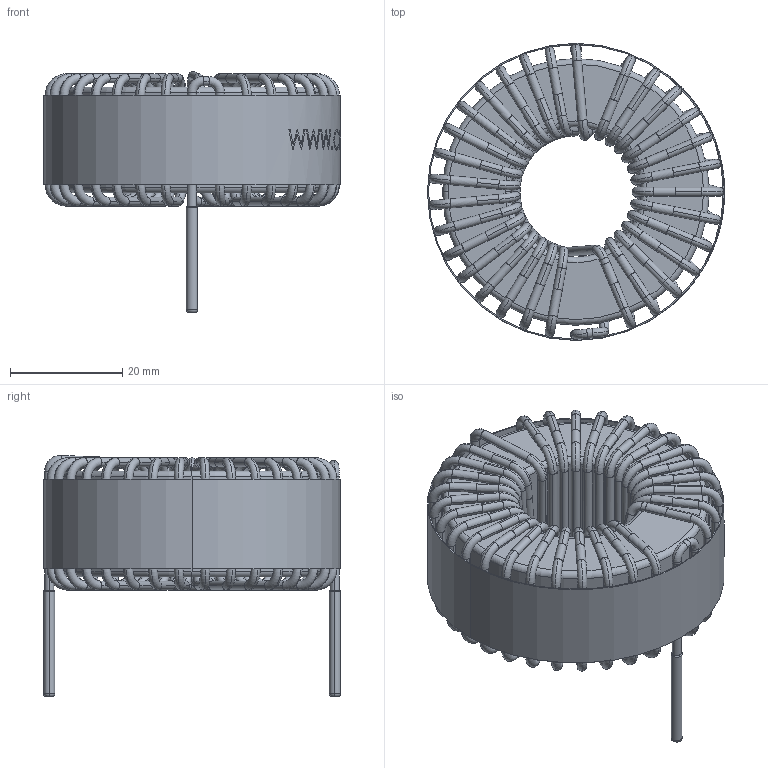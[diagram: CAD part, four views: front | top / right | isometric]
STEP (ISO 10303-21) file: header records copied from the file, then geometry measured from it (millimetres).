
FILE_DESCRIPTION (( 'STEP AP214' ), '1' );
FILE_NAME ('HF 467 -151M-20AH.STEP', '2021-03-18T11:02:01', ( '' ), ( '' ), 'SwSTEP 2.0', 'SolidWorks 2015', '' );
FILE_SCHEMA (( 'AUTOMOTIVE_DESIGN' ));
Length unit declared in the file: millimetre
Products named in the file (4): WINDING; CORE; WRAPPER; HF 467 -151M-20AH
Assembly tree (3 placements, depth 2):
  HF 467 -151M-20AH
    CORE
    WINDING
    WRAPPER
Bounding box: 53.05 x 53.03 x 43.05 mm (x, y, z)
Volume: 30550.6 mm3; surface area: 23356.7 mm2
Topology: 41 solids, 41 shells, 826 faces, 2140 edges, 1412 vertices
Faces by surface type: cylinder 346, torus 260, plane 117, bspline 103
Entity records: 40879 total; most frequent: CARTESIAN_POINT 14651, DIRECTION 4704, ORIENTED_EDGE 4280, AXIS2_PLACEMENT_3D 2177, EDGE_CURVE 2140, CIRCLE 1448, VERTEX_POINT 1412, EDGE_LOOP 846
